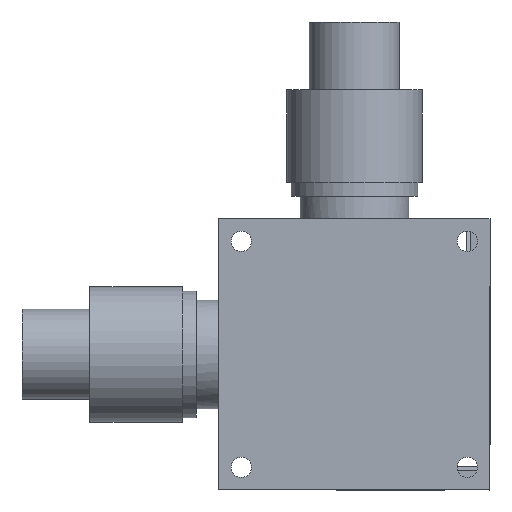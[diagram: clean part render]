
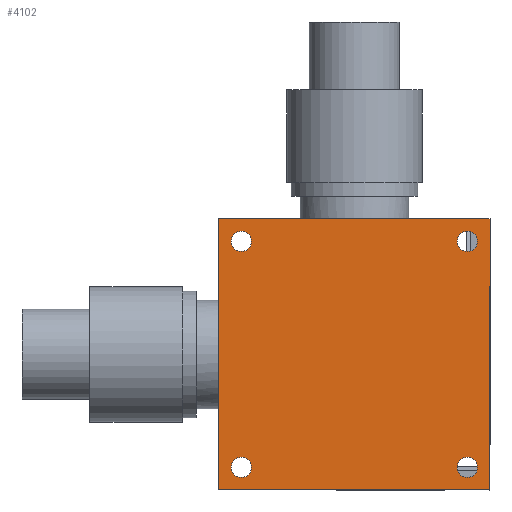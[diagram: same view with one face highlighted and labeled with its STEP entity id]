
A CAD part, front view. The second image highlights one B-rep face of the part: STEP entity #4102.
In plain terms, the highlighted planar face has unit normal (0, -1, 0).
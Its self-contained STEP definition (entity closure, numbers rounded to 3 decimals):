
#30 = CARTESIAN_POINT ( 'NONE',  ( 30., 0., -30. ) ) ;
#31 = CARTESIAN_POINT ( 'NONE',  ( -30., 0., -30. ) ) ;
#131 = CARTESIAN_POINT ( 'NONE',  ( 27.25, 0., -25. ) ) ;
#132 = CARTESIAN_POINT ( 'NONE',  ( 22.75, 0., -25. ) ) ;
#133 = DIRECTION ( 'NONE',  ( 1., 0., 0. ) ) ;
#134 = DIRECTION ( 'NONE',  ( 0., 1., 0. ) ) ;
#135 = AXIS2_PLACEMENT_3D ( 'NONE', #142, #134, #133 ) ;
#136 = CIRCLE ( 'NONE', #135, 2.25 ) ;
#142 = CARTESIAN_POINT ( 'NONE',  ( 25., 0., -25. ) ) ;
#172 = DIRECTION ( 'NONE',  ( -1., 0., 0. ) ) ;
#173 = VECTOR ( 'NONE', #172, 1000. ) ;
#174 = CARTESIAN_POINT ( 'NONE',  ( -30., 0., 30. ) ) ;
#175 = LINE ( 'NONE', #174, #173 ) ;
#176 = CARTESIAN_POINT ( 'NONE',  ( 30., 0., 30. ) ) ;
#177 = DIRECTION ( 'NONE',  ( 0., 0., 1. ) ) ;
#178 = VECTOR ( 'NONE', #177, 1000. ) ;
#179 = CARTESIAN_POINT ( 'NONE',  ( 30., 0., -30. ) ) ;
#180 = LINE ( 'NONE', #179, #178 ) ;
#181 = CARTESIAN_POINT ( 'NONE',  ( -30., 0., 30. ) ) ;
#187 = DIRECTION ( 'NONE',  ( 0., 0., -1. ) ) ;
#188 = VECTOR ( 'NONE', #187, 1000. ) ;
#189 = CARTESIAN_POINT ( 'NONE',  ( -30., 0., -30. ) ) ;
#190 = LINE ( 'NONE', #189, #188 ) ;
#198 = DIRECTION ( 'NONE',  ( 1., 0., 0. ) ) ;
#199 = DIRECTION ( 'NONE',  ( 0., 1., 0. ) ) ;
#200 = CARTESIAN_POINT ( 'NONE',  ( 25., 0., -25. ) ) ;
#201 = AXIS2_PLACEMENT_3D ( 'NONE', #200, #199, #198 ) ;
#202 = CIRCLE ( 'NONE', #201, 2.25 ) ;
#2923 = DIRECTION ( 'NONE',  ( 1., 0., 0. ) ) ;
#2924 = DIRECTION ( 'NONE',  ( 0., 1., 0. ) ) ;
#2925 = CARTESIAN_POINT ( 'NONE',  ( 25., 0., 25. ) ) ;
#2926 = AXIS2_PLACEMENT_3D ( 'NONE', #2925, #2924, #2923 ) ;
#2931 = CIRCLE ( 'NONE', #2926, 2.25 ) ;
#3689 = EDGE_CURVE ( 'NONE', #3690, #3691, #6375, .T. ) ;
#3690 = VERTEX_POINT ( 'NONE', #6371 ) ;
#3691 = VERTEX_POINT ( 'NONE', #6370 ) ;
#3702 = EDGE_CURVE ( 'NONE', #3993, #3992, #6354, .T. ) ;
#3710 = EDGE_CURVE ( 'NONE', #3979, #3978, #6437, .T. ) ;
#3930 = EDGE_CURVE ( 'NONE', #3691, #3690, #2931, .T. ) ;
#3977 = EDGE_CURVE ( 'NONE', #3978, #3979, #6569, .T. ) ;
#3978 = VERTEX_POINT ( 'NONE', #6561 ) ;
#3979 = VERTEX_POINT ( 'NONE', #6560 ) ;
#3991 = EDGE_CURVE ( 'NONE', #3992, #3993, #6543, .T. ) ;
#3992 = VERTEX_POINT ( 'NONE', #6593 ) ;
#3993 = VERTEX_POINT ( 'NONE', #6592 ) ;
#4050 = EDGE_LOOP ( 'NONE', ( #4051, #4215 ) ) ;
#4051 = ORIENTED_EDGE ( 'NONE', *, *, #3710, .T. ) ;
#4072 = EDGE_CURVE ( 'NONE', #4092, #4093, #6701, .T. ) ;
#4092 = VERTEX_POINT ( 'NONE', #31 ) ;
#4093 = VERTEX_POINT ( 'NONE', #30 ) ;
#4102 = ADVANCED_FACE ( 'NONE', ( #6820, #6819, #6818, #6817, #6816 ), #6815, .F. ) ;
#4103 = EDGE_LOOP ( 'NONE', ( #4104, #4105 ) ) ;
#4104 = ORIENTED_EDGE ( 'NONE', *, *, #4211, .T. ) ;
#4105 = ORIENTED_EDGE ( 'NONE', *, *, #4125, .T. ) ;
#4125 = EDGE_CURVE ( 'NONE', #4126, #4127, #136, .T. ) ;
#4126 = VERTEX_POINT ( 'NONE', #132 ) ;
#4127 = VERTEX_POINT ( 'NONE', #131 ) ;
#4211 = EDGE_CURVE ( 'NONE', #4127, #4126, #202, .T. ) ;
#4215 = ORIENTED_EDGE ( 'NONE', *, *, #3977, .T. ) ;
#4216 = EDGE_LOOP ( 'NONE', ( #4217, #4218 ) ) ;
#4217 = ORIENTED_EDGE ( 'NONE', *, *, #3702, .T. ) ;
#4218 = ORIENTED_EDGE ( 'NONE', *, *, #3991, .T. ) ;
#4219 = EDGE_LOOP ( 'NONE', ( #4220, #4221 ) ) ;
#4220 = ORIENTED_EDGE ( 'NONE', *, *, #3930, .T. ) ;
#4221 = ORIENTED_EDGE ( 'NONE', *, *, #3689, .T. ) ;
#4222 = EDGE_LOOP ( 'NONE', ( #4223, #4229, #4230, #4233 ) ) ;
#4223 = ORIENTED_EDGE ( 'NONE', *, *, #4224, .T. ) ;
#4224 = EDGE_CURVE ( 'NONE', #4228, #4092, #190, .T. ) ;
#4228 = VERTEX_POINT ( 'NONE', #181 ) ;
#4229 = ORIENTED_EDGE ( 'NONE', *, *, #4072, .T. ) ;
#4230 = ORIENTED_EDGE ( 'NONE', *, *, #4231, .T. ) ;
#4231 = EDGE_CURVE ( 'NONE', #4093, #4232, #180, .T. ) ;
#4232 = VERTEX_POINT ( 'NONE', #176 ) ;
#4233 = ORIENTED_EDGE ( 'NONE', *, *, #4234, .T. ) ;
#4234 = EDGE_CURVE ( 'NONE', #4232, #4228, #175, .T. ) ;
#6350 = DIRECTION ( 'NONE',  ( 1., 0., 0. ) ) ;
#6351 = DIRECTION ( 'NONE',  ( 0., 1., 0. ) ) ;
#6352 = CARTESIAN_POINT ( 'NONE',  ( -25., 0., 25. ) ) ;
#6353 = AXIS2_PLACEMENT_3D ( 'NONE', #6352, #6351, #6350 ) ;
#6354 = CIRCLE ( 'NONE', #6353, 2.25 ) ;
#6370 = CARTESIAN_POINT ( 'NONE',  ( 27.25, 0., 25. ) ) ;
#6371 = CARTESIAN_POINT ( 'NONE',  ( 22.75, 0., 25. ) ) ;
#6372 = DIRECTION ( 'NONE',  ( 1., 0., 0. ) ) ;
#6373 = DIRECTION ( 'NONE',  ( 0., 1., 0. ) ) ;
#6374 = AXIS2_PLACEMENT_3D ( 'NONE', #6477, #6373, #6372 ) ;
#6375 = CIRCLE ( 'NONE', #6374, 2.25 ) ;
#6429 = DIRECTION ( 'NONE',  ( 1., 0., 0. ) ) ;
#6430 = DIRECTION ( 'NONE',  ( 0., 1., 0. ) ) ;
#6431 = CARTESIAN_POINT ( 'NONE',  ( -25., 0., -25. ) ) ;
#6432 = AXIS2_PLACEMENT_3D ( 'NONE', #6431, #6430, #6429 ) ;
#6437 = CIRCLE ( 'NONE', #6432, 2.25 ) ;
#6477 = CARTESIAN_POINT ( 'NONE',  ( 25., 0., 25. ) ) ;
#6543 = CIRCLE ( 'NONE', #6597, 2.25 ) ;
#6560 = CARTESIAN_POINT ( 'NONE',  ( -22.75, 0., -25. ) ) ;
#6561 = CARTESIAN_POINT ( 'NONE',  ( -27.25, 0., -25. ) ) ;
#6562 = DIRECTION ( 'NONE',  ( 1., 0., 0. ) ) ;
#6563 = DIRECTION ( 'NONE',  ( 0., 1., 0. ) ) ;
#6564 = CARTESIAN_POINT ( 'NONE',  ( -25., 0., -25. ) ) ;
#6565 = AXIS2_PLACEMENT_3D ( 'NONE', #6564, #6563, #6562 ) ;
#6569 = CIRCLE ( 'NONE', #6565, 2.25 ) ;
#6592 = CARTESIAN_POINT ( 'NONE',  ( -22.75, 0., 25. ) ) ;
#6593 = CARTESIAN_POINT ( 'NONE',  ( -27.25, 0., 25. ) ) ;
#6594 = DIRECTION ( 'NONE',  ( 1., 0., 0. ) ) ;
#6595 = DIRECTION ( 'NONE',  ( 0., 1., 0. ) ) ;
#6596 = CARTESIAN_POINT ( 'NONE',  ( -25., 0., 25. ) ) ;
#6597 = AXIS2_PLACEMENT_3D ( 'NONE', #6596, #6595, #6594 ) ;
#6698 = DIRECTION ( 'NONE',  ( 1., 0., 0. ) ) ;
#6699 = VECTOR ( 'NONE', #6698, 1000. ) ;
#6700 = CARTESIAN_POINT ( 'NONE',  ( -30., 0., -30. ) ) ;
#6701 = LINE ( 'NONE', #6700, #6699 ) ;
#6811 = DIRECTION ( 'NONE',  ( 1., 0., 0. ) ) ;
#6812 = DIRECTION ( 'NONE',  ( 0., 1., 0. ) ) ;
#6813 = CARTESIAN_POINT ( 'NONE',  ( -30., 0., -30. ) ) ;
#6814 = AXIS2_PLACEMENT_3D ( 'NONE', #6813, #6812, #6811 ) ;
#6815 = PLANE ( 'NONE',  #6814 ) ;
#6816 = FACE_OUTER_BOUND ( 'NONE', #4222, .T. ) ;
#6817 = FACE_BOUND ( 'NONE', #4219, .T. ) ;
#6818 = FACE_BOUND ( 'NONE', #4216, .T. ) ;
#6819 = FACE_BOUND ( 'NONE', #4050, .T. ) ;
#6820 = FACE_BOUND ( 'NONE', #4103, .T. ) ;
